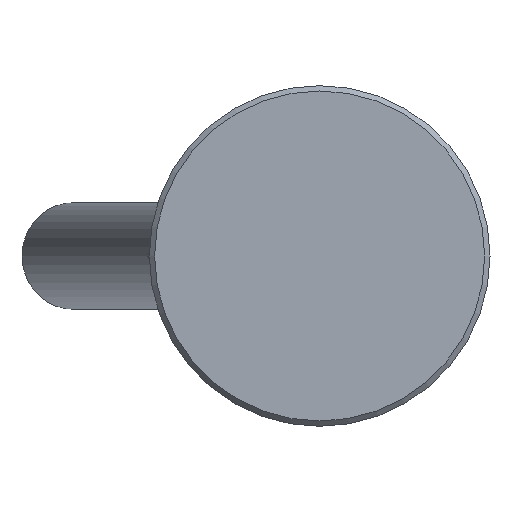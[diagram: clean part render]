
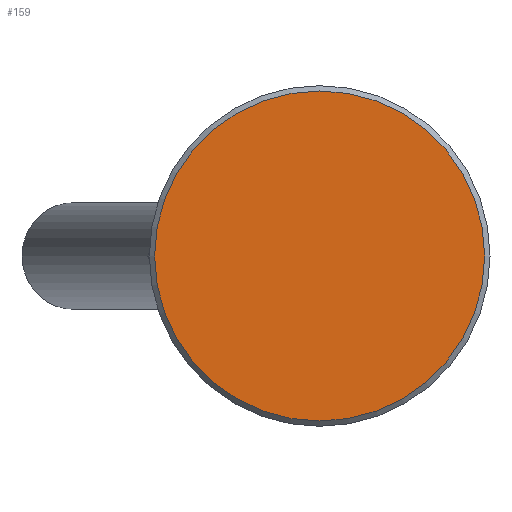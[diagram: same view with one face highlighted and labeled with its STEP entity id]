
A CAD part, front view. The second image highlights one B-rep face of the part: STEP entity #159.
In plain terms, the highlighted planar face has unit normal (0, -1, 0).
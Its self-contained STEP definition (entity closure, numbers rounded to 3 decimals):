
#159 = ADVANCED_FACE( '', ( #316 ), #317, .F. );
#316 = FACE_OUTER_BOUND( '', #498, .T. );
#317 = PLANE( '', #499 );
#498 = EDGE_LOOP( '', ( #714 ) );
#499 = AXIS2_PLACEMENT_3D( '', #715, #716, #717 );
#714 = ORIENTED_EDGE( '', *, *, #1027, .T. );
#715 = CARTESIAN_POINT( '', ( 15.5, 0., 0. ) );
#716 = DIRECTION( '', ( 0., 1., 0. ) );
#717 = DIRECTION( '', ( 0., 0., 1. ) );
#1027 = EDGE_CURVE( '', #1179, #1179, #1180, .T. );
#1179 = VERTEX_POINT( '', #1437 );
#1180 = CIRCLE( '', #1438, 15.5 );
#1437 = CARTESIAN_POINT( '', ( 0., 0., -15.5 ) );
#1438 = AXIS2_PLACEMENT_3D( '', #1828, #1829, #1830 );
#1828 = CARTESIAN_POINT( '', ( 0., 0., 0. ) );
#1829 = DIRECTION( '', ( 0., -1., 0. ) );
#1830 = DIRECTION( '', ( 0., 0., -1. ) );
